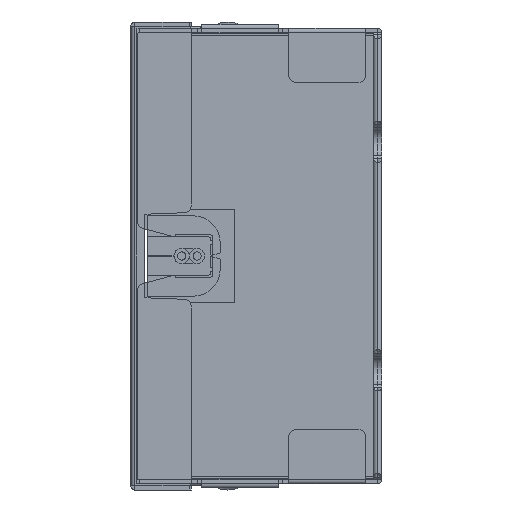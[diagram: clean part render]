
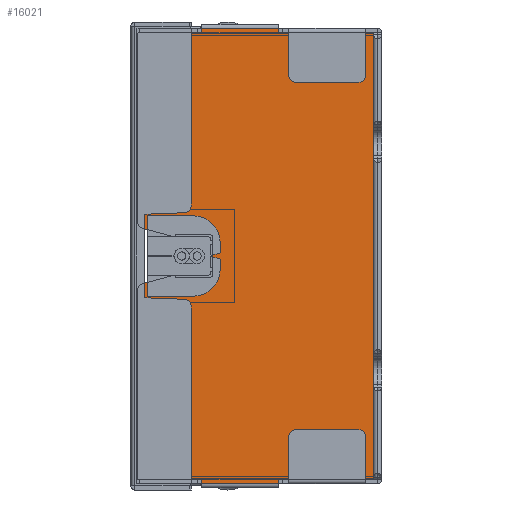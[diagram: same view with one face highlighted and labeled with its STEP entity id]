
A CAD part, left-side view. The second image highlights one B-rep face of the part: STEP entity #16021.
In plain terms, the highlighted planar face has unit normal (-1, 0, 0).
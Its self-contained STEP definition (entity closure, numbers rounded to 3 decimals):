
#6396=CARTESIAN_POINT('',(-104.95,-33.2,-35.6));
#6397=DIRECTION('',(-1.,0.,0.));
#6398=DIRECTION('',(0.,0.,-1.));
#6399=AXIS2_PLACEMENT_3D('',#6396,#6397,#6398);
#6404=DIRECTION('',(0.,1.,0.));
#6405=VECTOR('',#6404,28.082);
#6406=CARTESIAN_POINT('',(-104.95,-33.2,-35.9));
#6407=LINE('',#6406,#6405);
#6411=CARTESIAN_POINT('',(-104.95,-5.118,-34.9));
#6412=DIRECTION('',(-1.,0.,0.));
#6413=DIRECTION('',(0.,0.966,-0.259));
#6414=AXIS2_PLACEMENT_3D('',#6411,#6412,#6413);
#6419=DIRECTION('',(0.,0.259,0.966));
#6420=VECTOR('',#6419,5.03);
#6421=CARTESIAN_POINT('',(-104.95,-4.152,-35.159));
#6422=LINE('',#6421,#6420);
#6426=DIRECTION('',(0.,-1.,0.));
#6427=VECTOR('',#6426,0.3);
#6428=CARTESIAN_POINT('',(-104.95,-2.85,-30.3));
#6429=LINE('',#6428,#6427);
#6433=DIRECTION('',(0.,0.,1.));
#6434=VECTOR('',#6433,5.35);
#6435=CARTESIAN_POINT('',(-104.95,-3.15,-30.3));
#6436=LINE('',#6435,#6434);
#6440=DIRECTION('',(0.,1.,0.));
#6441=VECTOR('',#6440,5.7);
#6442=CARTESIAN_POINT('',(-104.95,-2.85,-24.65));
#6443=LINE('',#6442,#6441);
#6447=DIRECTION('',(0.,0.,-1.));
#6448=VECTOR('',#6447,5.35);
#6449=CARTESIAN_POINT('',(-104.95,3.15,-24.95));
#6450=LINE('',#6449,#6448);
#6454=DIRECTION('',(0.,-1.,0.));
#6455=VECTOR('',#6454,0.3);
#6456=CARTESIAN_POINT('',(-104.95,3.15,-30.3));
#6457=LINE('',#6456,#6455);
#6461=DIRECTION('',(0.,0.259,-0.966));
#6462=VECTOR('',#6461,5.03);
#6463=CARTESIAN_POINT('',(-104.95,2.85,-30.3));
#6464=LINE('',#6463,#6462);
#6468=CARTESIAN_POINT('',(-104.95,5.118,-34.9));
#6469=DIRECTION('',(-1.,0.,0.));
#6470=DIRECTION('',(0.,0.,-1.));
#6471=AXIS2_PLACEMENT_3D('',#6468,#6469,#6470);
#6476=DIRECTION('',(0.,1.,0.));
#6477=VECTOR('',#6476,28.082);
#6478=CARTESIAN_POINT('',(-104.95,5.118,-35.9));
#6479=LINE('',#6478,#6477);
#6483=CARTESIAN_POINT('',(-104.95,33.2,-35.6));
#6484=DIRECTION('',(-1.,0.,0.));
#6485=DIRECTION('',(0.,1.,0.));
#6486=AXIS2_PLACEMENT_3D('',#6483,#6484,#6485);
#6491=DIRECTION('',(0.,0.,1.));
#6492=VECTOR('',#6491,9.3);
#6493=CARTESIAN_POINT('',(-104.95,33.5,-35.6));
#6494=LINE('',#6493,#6492);
#6498=DIRECTION('',(0.,-1.,0.));
#6499=VECTOR('',#6498,0.6);
#6500=CARTESIAN_POINT('',(-104.95,34.1,-26.3));
#6501=LINE('',#6500,#6499);
#6505=DIRECTION('',(0.,1.,0.));
#6506=VECTOR('',#6505,0.6);
#6507=CARTESIAN_POINT('',(-104.95,33.5,-14.8));
#6508=LINE('',#6507,#6506);
#6512=DIRECTION('',(0.,0.,1.));
#6513=VECTOR('',#6512,14.2);
#6514=CARTESIAN_POINT('',(-104.95,33.5,-14.8));
#6515=LINE('',#6514,#6513);
#6519=DIRECTION('',(0.,-1.,0.));
#6520=VECTOR('',#6519,67.);
#6521=CARTESIAN_POINT('',(-104.95,33.5,-0.6));
#6522=LINE('',#6521,#6520);
#6526=DIRECTION('',(0.,0.,-1.));
#6527=VECTOR('',#6526,14.2);
#6528=CARTESIAN_POINT('',(-104.95,-33.5,-0.6));
#6529=LINE('',#6528,#6527);
#6533=DIRECTION('',(0.,1.,0.));
#6534=VECTOR('',#6533,0.6);
#6535=CARTESIAN_POINT('',(-104.95,-34.1,-14.8));
#6536=LINE('',#6535,#6534);
#6540=DIRECTION('',(0.,-1.,0.));
#6541=VECTOR('',#6540,0.6);
#6542=CARTESIAN_POINT('',(-104.95,-33.5,-26.3));
#6543=LINE('',#6542,#6541);
#6547=DIRECTION('',(0.,0.,-1.));
#6548=VECTOR('',#6547,9.3);
#6549=CARTESIAN_POINT('',(-104.95,-33.5,-26.3));
#6550=LINE('',#6549,#6548);
#6748=DIRECTION('',(0.,0.,-1.));
#6749=VECTOR('',#6748,11.5);
#6750=CARTESIAN_POINT('',(-104.95,-34.1,-14.8));
#6751=LINE('',#6750,#6749);
#6987=DIRECTION('',(0.,0.,1.));
#6988=VECTOR('',#6987,11.5);
#6989=CARTESIAN_POINT('',(-104.95,34.1,-26.3));
#6990=LINE('',#6989,#6988);
#7138=CARTESIAN_POINT('',(-104.95,2.85,-24.95));
#7139=DIRECTION('',(1.,0.,0.));
#7140=DIRECTION('',(0.,1.,0.));
#7141=AXIS2_PLACEMENT_3D('',#7138,#7139,#7140);
#7168=CARTESIAN_POINT('',(-104.95,-2.85,-24.95));
#7169=DIRECTION('',(1.,0.,0.));
#7170=DIRECTION('',(0.,0.,1.));
#7171=AXIS2_PLACEMENT_3D('',#7168,#7169,#7170);
#8325=CARTESIAN_POINT('',(-104.95,-33.5,-0.6));
#8326=VERTEX_POINT('',#8325);
#8327=CARTESIAN_POINT('',(-104.95,33.5,-0.6));
#8328=VERTEX_POINT('',#8327);
#8353=CARTESIAN_POINT('',(-104.95,-33.5,-26.3));
#8354=CARTESIAN_POINT('',(-104.95,-34.1,-26.3));
#8355=VERTEX_POINT('',#8353);
#8356=VERTEX_POINT('',#8354);
#8357=CARTESIAN_POINT('',(-104.95,-34.1,-14.8));
#8358=CARTESIAN_POINT('',(-104.95,-33.5,-14.8));
#8359=VERTEX_POINT('',#8357);
#8360=VERTEX_POINT('',#8358);
#8385=CARTESIAN_POINT('',(-104.95,33.5,-14.8));
#8386=CARTESIAN_POINT('',(-104.95,34.1,-14.8));
#8387=VERTEX_POINT('',#8385);
#8388=VERTEX_POINT('',#8386);
#8389=CARTESIAN_POINT('',(-104.95,34.1,-26.3));
#8390=CARTESIAN_POINT('',(-104.95,33.5,-26.3));
#8391=VERTEX_POINT('',#8389);
#8392=VERTEX_POINT('',#8390);
#8525=CARTESIAN_POINT('',(-104.95,-2.85,-30.3));
#8526=CARTESIAN_POINT('',(-104.95,-3.15,-30.3));
#8527=VERTEX_POINT('',#8525);
#8528=VERTEX_POINT('',#8526);
#8529=CARTESIAN_POINT('',(-104.95,3.15,-30.3));
#8530=CARTESIAN_POINT('',(-104.95,2.85,-30.3));
#8531=VERTEX_POINT('',#8529);
#8532=VERTEX_POINT('',#8530);
#8967=CARTESIAN_POINT('',(-104.95,5.118,-35.9));
#8968=VERTEX_POINT('',#8967);
#8969=CARTESIAN_POINT('',(-104.95,4.152,-35.159));
#8970=VERTEX_POINT('',#8969);
#8975=CARTESIAN_POINT('',(-104.95,-4.152,-35.159));
#8976=VERTEX_POINT('',#8975);
#8977=CARTESIAN_POINT('',(-104.95,-5.118,-35.9));
#8978=VERTEX_POINT('',#8977);
#9520=CARTESIAN_POINT('',(-104.95,2.85,-24.65));
#9522=VERTEX_POINT('',#9520);
#9524=CARTESIAN_POINT('',(-104.95,3.15,-24.95));
#9526=VERTEX_POINT('',#9524);
#9528=CARTESIAN_POINT('',(-104.95,-3.15,-24.95));
#9530=VERTEX_POINT('',#9528);
#9532=CARTESIAN_POINT('',(-104.95,-2.85,-24.65));
#9534=VERTEX_POINT('',#9532);
#9595=CARTESIAN_POINT('',(-104.95,-33.2,-35.9));
#9596=VERTEX_POINT('',#9595);
#9597=CARTESIAN_POINT('',(-104.95,-33.5,-35.6));
#9598=VERTEX_POINT('',#9597);
#9603=CARTESIAN_POINT('',(-104.95,33.5,-35.6));
#9604=VERTEX_POINT('',#9603);
#9605=CARTESIAN_POINT('',(-104.95,33.2,-35.9));
#9606=VERTEX_POINT('',#9605);
#15964=CARTESIAN_POINT('',(-104.95,-33.5,0.));
#15965=DIRECTION('',(1.,0.,0.));
#15966=DIRECTION('',(0.,-1.,0.));
#15967=AXIS2_PLACEMENT_3D('',#15964,#15965,#15966);
#15968=PLANE('',#15967);
#15970=ORIENTED_EDGE('',*,*,#15969,.F.);
#15972=ORIENTED_EDGE('',*,*,#15971,.T.);
#15974=ORIENTED_EDGE('',*,*,#15973,.F.);
#15976=ORIENTED_EDGE('',*,*,#15975,.T.);
#15978=ORIENTED_EDGE('',*,*,#15977,.T.);
#15980=ORIENTED_EDGE('',*,*,#15979,.T.);
#15982=ORIENTED_EDGE('',*,*,#15981,.F.);
#15984=ORIENTED_EDGE('',*,*,#15983,.T.);
#15986=ORIENTED_EDGE('',*,*,#15985,.F.);
#15988=ORIENTED_EDGE('',*,*,#15987,.T.);
#15990=ORIENTED_EDGE('',*,*,#15989,.T.);
#15992=ORIENTED_EDGE('',*,*,#15991,.T.);
#15994=ORIENTED_EDGE('',*,*,#15993,.F.);
#15996=ORIENTED_EDGE('',*,*,#15995,.T.);
#15998=ORIENTED_EDGE('',*,*,#15997,.F.);
#16000=ORIENTED_EDGE('',*,*,#15999,.T.);
#16002=ORIENTED_EDGE('',*,*,#16001,.F.);
#16004=ORIENTED_EDGE('',*,*,#16003,.T.);
#16006=ORIENTED_EDGE('',*,*,#16005,.F.);
#16007=ORIENTED_EDGE('',*,*,#15954,.T.);
#16008=ORIENTED_EDGE('',*,*,#15190,.T.);
#16010=ORIENTED_EDGE('',*,*,#16009,.T.);
#16012=ORIENTED_EDGE('',*,*,#16011,.F.);
#16014=ORIENTED_EDGE('',*,*,#16013,.T.);
#16016=ORIENTED_EDGE('',*,*,#16015,.F.);
#16018=ORIENTED_EDGE('',*,*,#16017,.T.);
#16019=EDGE_LOOP('',(#15970,#15972,#15974,#15976,#15978,#15980,#15982,#15984,
#15986,#15988,#15990,#15992,#15994,#15996,#15998,#16000,#16002,#16004,#16006,
#16007,#16008,#16010,#16012,#16014,#16016,#16018));
#16020=FACE_OUTER_BOUND('',#16019,.F.);
#16021=ADVANCED_FACE('',(#16020),#15968,.F.);
#6400=CIRCLE('',#6399,0.3);
#6415=CIRCLE('',#6414,1.);
#6472=CIRCLE('',#6471,1.);
#6487=CIRCLE('',#6486,0.3);
#7142=CIRCLE('',#7141,0.3);
#7172=CIRCLE('',#7171,0.3);
#15190=EDGE_CURVE('',#8328,#8326,#6522,.T.);
#15954=EDGE_CURVE('',#8387,#8328,#6515,.T.);
#15969=EDGE_CURVE('',#9596,#9598,#6400,.T.);
#15971=EDGE_CURVE('',#9596,#8978,#6407,.T.);
#15973=EDGE_CURVE('',#8976,#8978,#6415,.T.);
#15975=EDGE_CURVE('',#8976,#8527,#6422,.T.);
#15977=EDGE_CURVE('',#8527,#8528,#6429,.T.);
#15979=EDGE_CURVE('',#8528,#9530,#6436,.T.);
#15981=EDGE_CURVE('',#9534,#9530,#7172,.T.);
#15983=EDGE_CURVE('',#9534,#9522,#6443,.T.);
#15985=EDGE_CURVE('',#9526,#9522,#7142,.T.);
#15987=EDGE_CURVE('',#9526,#8531,#6450,.T.);
#15989=EDGE_CURVE('',#8531,#8532,#6457,.T.);
#15991=EDGE_CURVE('',#8532,#8970,#6464,.T.);
#15993=EDGE_CURVE('',#8968,#8970,#6472,.T.);
#15995=EDGE_CURVE('',#8968,#9606,#6479,.T.);
#15997=EDGE_CURVE('',#9604,#9606,#6487,.T.);
#15999=EDGE_CURVE('',#9604,#8392,#6494,.T.);
#16001=EDGE_CURVE('',#8391,#8392,#6501,.T.);
#16003=EDGE_CURVE('',#8391,#8388,#6990,.T.);
#16005=EDGE_CURVE('',#8387,#8388,#6508,.T.);
#16009=EDGE_CURVE('',#8326,#8360,#6529,.T.);
#16011=EDGE_CURVE('',#8359,#8360,#6536,.T.);
#16013=EDGE_CURVE('',#8359,#8356,#6751,.T.);
#16015=EDGE_CURVE('',#8355,#8356,#6543,.T.);
#16017=EDGE_CURVE('',#8355,#9598,#6550,.T.);
